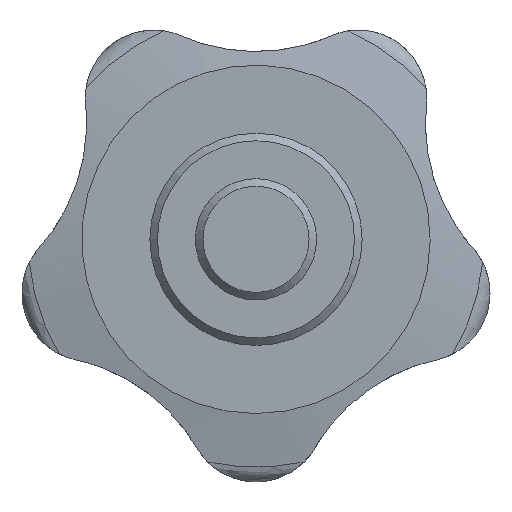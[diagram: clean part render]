
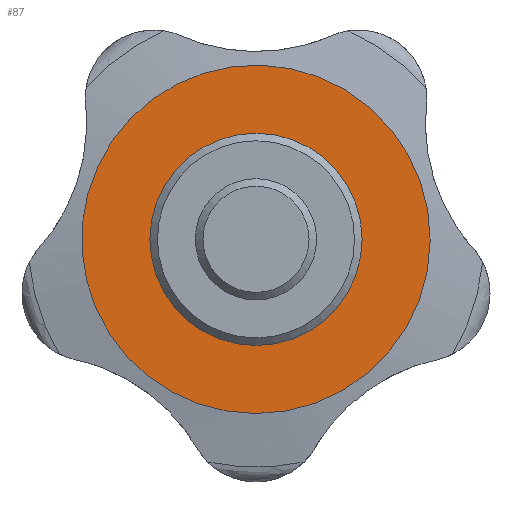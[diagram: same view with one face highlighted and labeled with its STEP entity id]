
A CAD part, front view. The second image highlights one B-rep face of the part: STEP entity #87.
In plain terms, the highlighted planar face has unit normal (0, -1, 0).
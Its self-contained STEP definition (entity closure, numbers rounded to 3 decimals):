
#87 = ADVANCED_FACE( '', ( #131, #132 ), #133, .F. );
#131 = FACE_BOUND( '', #204, .T. );
#132 = FACE_OUTER_BOUND( '', #205, .T. );
#133 = PLANE( '', #206 );
#204 = EDGE_LOOP( '', ( #409 ) );
#205 = EDGE_LOOP( '', ( #410 ) );
#206 = AXIS2_PLACEMENT_3D( '', #411, #412, #413 );
#409 = ORIENTED_EDGE( '', *, *, #599, .F. );
#410 = ORIENTED_EDGE( '', *, *, #588, .T. );
#411 = CARTESIAN_POINT( '', ( 11.49, 12.5, 0. ) );
#412 = DIRECTION( '', ( 0., 1., 0. ) );
#413 = DIRECTION( '', ( 0., 0., 1. ) );
#588 = EDGE_CURVE( '', #727, #727, #728, .T. );
#599 = EDGE_CURVE( '', #739, #739, #740, .T. );
#727 = VERTEX_POINT( '', #1214 );
#728 = CIRCLE( '', #1215, 11.49 );
#739 = VERTEX_POINT( '', #1291 );
#740 = CIRCLE( '', #1292, 7. );
#1214 = CARTESIAN_POINT( '', ( 0., 12.5, -11.49 ) );
#1215 = AXIS2_PLACEMENT_3D( '', #1400, #1401, #1402 );
#1291 = CARTESIAN_POINT( '', ( 0., 12.5, -7. ) );
#1292 = AXIS2_PLACEMENT_3D( '', #1418, #1419, #1420 );
#1400 = CARTESIAN_POINT( '', ( 0., 12.5, 0. ) );
#1401 = DIRECTION( '', ( 0., -1., 0. ) );
#1402 = DIRECTION( '', ( 0., 0., -1. ) );
#1418 = CARTESIAN_POINT( '', ( 0., 12.5, 0. ) );
#1419 = DIRECTION( '', ( 0., -1., 0. ) );
#1420 = DIRECTION( '', ( 0., 0., -1. ) );
